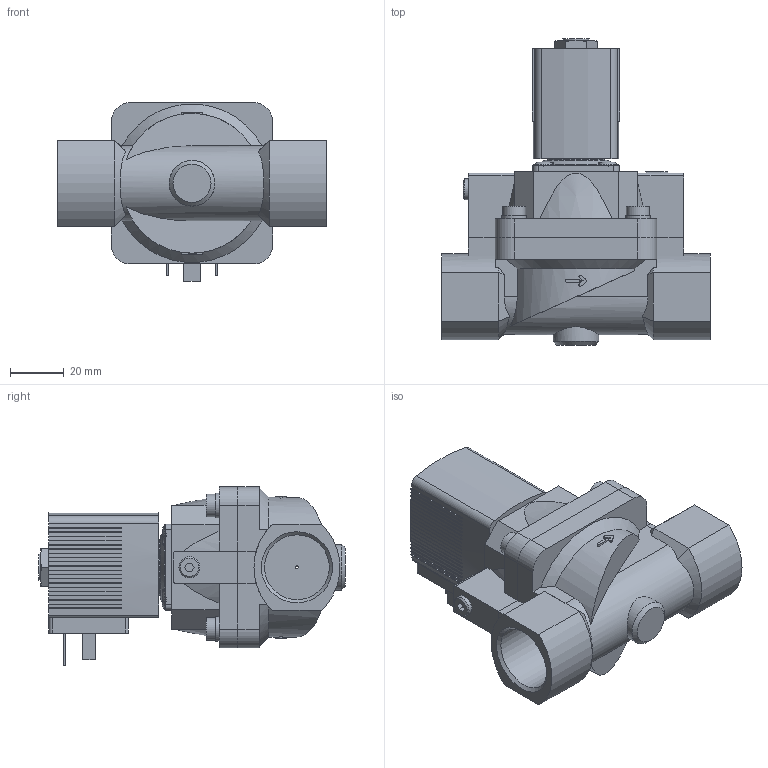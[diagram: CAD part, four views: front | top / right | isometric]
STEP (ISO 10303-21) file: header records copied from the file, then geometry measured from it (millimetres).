
FILE_DESCRIPTION(/* description */ ('STEP AP214'),/* implementation_level */ '2;1');
FILE_NAME(/* name */ '5404-361202-Servo-assisted_2_2_way_piston_valve',/* time_stamp */ '2024-02-29T09:26:43+01:00',/* author */ ('License CC BY-ND 4.0'),/* organization */ ('CADENAS'),/* preprocessor_version */ 'ST-DEVELOPER v19.3',/* originating_system */ 'PARTsolutions',/* authorisation */ ' ');
FILE_SCHEMA (('AUTOMOTIVE_DESIGN {1 0 10303 214 3 1 1}'));
Length unit declared in the file: millimetre
Products named in the file (4): 5404-361202-Servo-assisted 2/2 way piston valve; 5282g-8520MS000-2/2-Wege-Magnetventil_Gehaeuse; 5282d-20MSAU3J-2/2-Wege-Magnetventil_Deckel; AC10ex-5OO-Plan-Coil
Assembly tree (3 placements, depth 2):
  5404-361202-Servo-assisted 2/2 way piston valve
    5282g-8520MS000-2/2-Wege-Magnetventil_Gehaeuse
    5282d-20MSAU3J-2/2-Wege-Magnetventil_Deckel
    AC10ex-5OO-Plan-Coil
Bounding box: 100 x 114.1 x 66.5 mm (x, y, z)
Volume: 232130.5 mm3; surface area: 46830.4 mm2
Topology: 3 solids, 3 shells, 509 faces, 1390 edges, 921 vertices
Faces by surface type: plane 394, cylinder 84, cone 26, torus 5
Full cylindrical faces by diameter (mm): 1 x1, 2.013 x1, 4 x4, 7.5 x4, 7.6 x4, 7.8 x1, 8.5 x4, 9.2 x4, 9.74 x1, 17 x1, 21 x1, 24.117 x2
Entity records: 18012 total; most frequent: CARTESIAN_POINT 3031, ORIENTED_EDGE 2680, DIRECTION 2596, EDGE_CURVE 1340, LINE 992, VECTOR 992, VERTEX_POINT 910, AXIS2_PLACEMENT_3D 802
